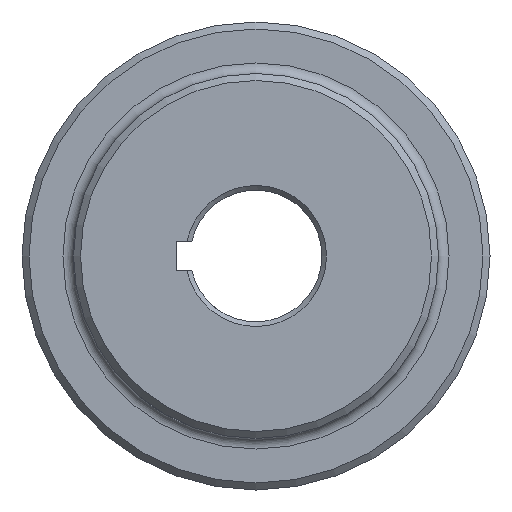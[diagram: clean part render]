
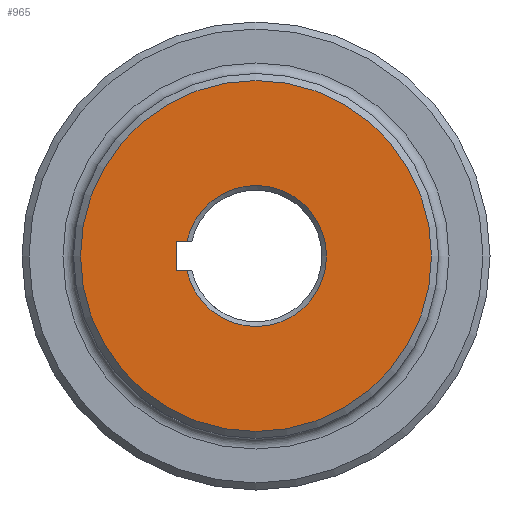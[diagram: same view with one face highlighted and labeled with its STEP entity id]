
A CAD part, left-side view. The second image highlights one B-rep face of the part: STEP entity #965.
In plain terms, the highlighted planar face has unit normal (-1, 0, 0).
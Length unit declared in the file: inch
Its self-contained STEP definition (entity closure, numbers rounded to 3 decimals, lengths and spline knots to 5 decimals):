
#50 = ORIENTED_EDGE ( 'NONE', *, *, #126, .F. ) ;
#52 = EDGE_CURVE ( 'NONE', #2079, #145, #2147, .T. ) ;
#115 = AXIS2_PLACEMENT_3D ( 'NONE', #1640, #1942, #2018 ) ;
#126 = EDGE_CURVE ( 'NONE', #145, #1329, #210, .T. ) ;
#145 = VERTEX_POINT ( 'NONE', #2188 ) ;
#204 = EDGE_LOOP ( 'NONE', ( #444, #1715, #365, #50 ) ) ;
#210 = LINE ( 'NONE', #1778, #2218 ) ;
#251 = CARTESIAN_POINT ( 'NONE',  ( 0., 0., 0. ) ) ;
#312 = CARTESIAN_POINT ( 'NONE',  ( 0., 0., -0.125 ) ) ;
#318 = DIRECTION ( 'NONE',  ( -1., 0., 0. ) ) ;
#365 = ORIENTED_EDGE ( 'NONE', *, *, #1700, .F. ) ;
#415 = DIRECTION ( 'NONE',  ( 0., 0., -1. ) ) ;
#444 = ORIENTED_EDGE ( 'NONE', *, *, #52, .F. ) ;
#493 = FACE_BOUND ( 'NONE', #204, .T. ) ;
#514 = DIRECTION ( 'NONE',  ( 0., -1., 0. ) ) ;
#522 = VECTOR ( 'NONE', #1704, 39.37008 ) ;
#678 = CIRCLE ( 'NONE', #1336, 1.5 ) ;
#709 = VERTEX_POINT ( 'NONE', #1434 ) ;
#768 = EDGE_CURVE ( 'NONE', #2079, #1215, #1177, .T. ) ;
#769 = DIRECTION ( 'NONE',  ( 0., 0., -1. ) ) ;
#864 = EDGE_LOOP ( 'NONE', ( #1101 ) ) ;
#947 = CARTESIAN_POINT ( 'NONE',  ( 0., 0.67925, -0.125 ) ) ;
#965 = ADVANCED_FACE ( 'NONE', ( #1192, #493 ), #1258, .F. ) ;
#1101 = ORIENTED_EDGE ( 'NONE', *, *, #1335, .T. ) ;
#1133 = VECTOR ( 'NONE', #514, 39.37008 ) ;
#1177 = CIRCLE ( 'NONE', #1821, 0.60275 ) ;
#1192 = FACE_OUTER_BOUND ( 'NONE', #864, .T. ) ;
#1215 = VERTEX_POINT ( 'NONE', #1275 ) ;
#1258 = PLANE ( 'NONE',  #115 ) ;
#1275 = CARTESIAN_POINT ( 'NONE',  ( 0., 0.58965, -0.125 ) ) ;
#1293 = CARTESIAN_POINT ( 'NONE',  ( 0., 0., 0. ) ) ;
#1329 = VERTEX_POINT ( 'NONE', #947 ) ;
#1335 = EDGE_CURVE ( 'NONE', #709, #709, #678, .T. ) ;
#1336 = AXIS2_PLACEMENT_3D ( 'NONE', #1293, #318, #415 ) ;
#1434 = CARTESIAN_POINT ( 'NONE',  ( 0., 0., -1.5 ) ) ;
#1640 = CARTESIAN_POINT ( 'NONE',  ( 0., 0., 0. ) ) ;
#1700 = EDGE_CURVE ( 'NONE', #1329, #1215, #2210, .T. ) ;
#1704 = DIRECTION ( 'NONE',  ( 0., 1., 0. ) ) ;
#1715 = ORIENTED_EDGE ( 'NONE', *, *, #768, .T. ) ;
#1778 = CARTESIAN_POINT ( 'NONE',  ( 0., 0.67925, -0.125 ) ) ;
#1809 = DIRECTION ( 'NONE',  ( 0., 0., -1. ) ) ;
#1821 = AXIS2_PLACEMENT_3D ( 'NONE', #251, #1846, #1809 ) ;
#1846 = DIRECTION ( 'NONE',  ( 1., 0., 0. ) ) ;
#1942 = DIRECTION ( 'NONE',  ( 1., 0., 0. ) ) ;
#2018 = DIRECTION ( 'NONE',  ( 0., 0., -1. ) ) ;
#2079 = VERTEX_POINT ( 'NONE', #2238 ) ;
#2147 = LINE ( 'NONE', #2225, #522 ) ;
#2188 = CARTESIAN_POINT ( 'NONE',  ( 0., 0.67925, 0.125 ) ) ;
#2210 = LINE ( 'NONE', #312, #1133 ) ;
#2218 = VECTOR ( 'NONE', #769, 39.37008 ) ;
#2225 = CARTESIAN_POINT ( 'NONE',  ( 0., 0., 0.125 ) ) ;
#2238 = CARTESIAN_POINT ( 'NONE',  ( 0., 0.58965, 0.125 ) ) ;
